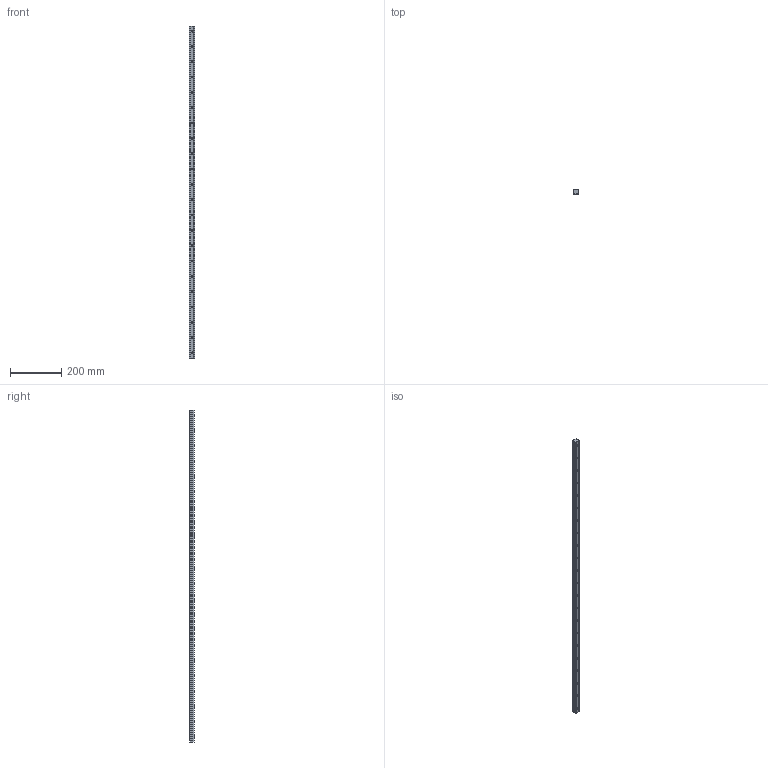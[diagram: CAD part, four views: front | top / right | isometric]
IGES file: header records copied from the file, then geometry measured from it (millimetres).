
Start section: SolidWorks IGES file using analytic representation for surfaces
Global section: file name: C:\Users\IanO\Desktop\L1016_v2\L1016.BL25_v2\L1016.BL25_v2_20160611_IGES\L1016.BL25-1300.igs; native system: SolidWorks 2017; preprocessor: SolidWorks 2017; author: IanO; date: 190612.130727; units: millimetre
Bounding box: 23 x 19.2 x 1300 mm (x, y, z)
Surface area: 123517.5 mm2 (no closed solid volume)
Topology: 0 solids, 0 shells, 136 faces, 3336 edges, 3336 vertices
Faces by surface type: revolution 92, bspline 44
